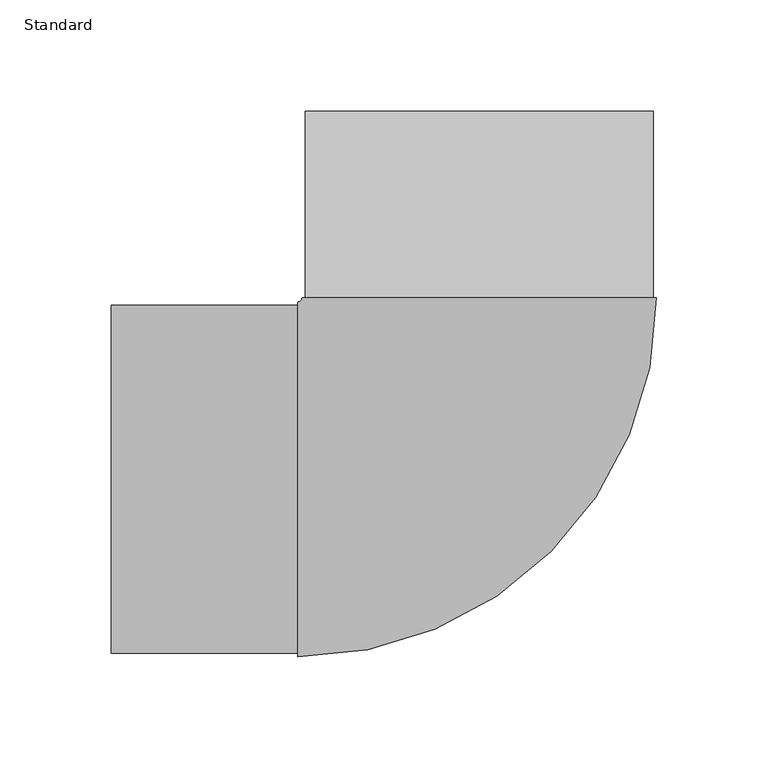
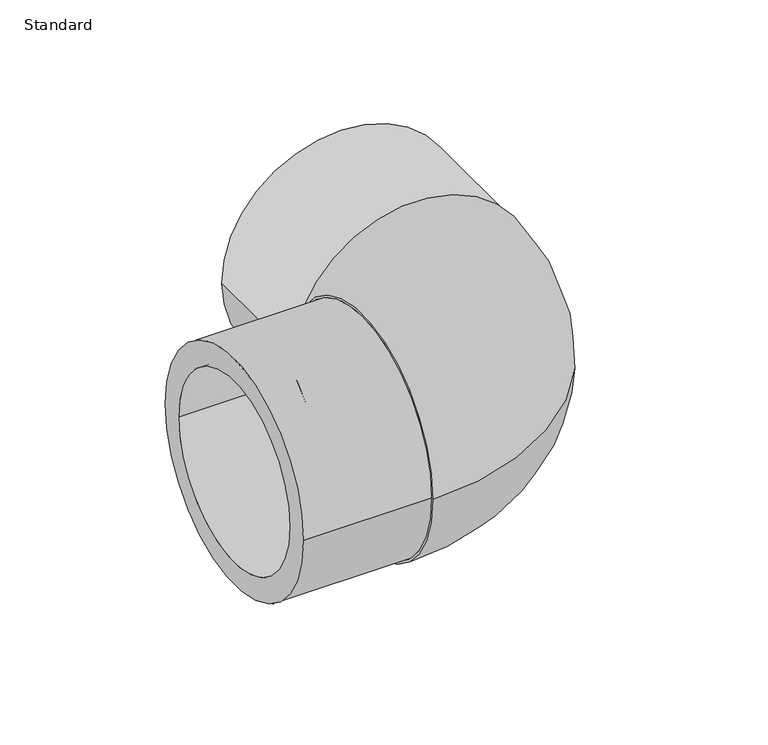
"""IFC4 building model written with IfcOpenShell, lengths in millimetres: pipe fitting geometry, EGB_VASEN_ PPR_Codo a tope 90 WXRB200_Codo a tope 45 WXRB220 : Standard."""

from ifc_helpers import new_model, si_unit, point, frame, origin, place, context, project, spatial, polyline, circle_curve, ellipse_curve, trimmed, source, transform, mapped, element, save
from ifc_brep_helpers import plane_surface, cylinder_surface, revolved_surface, advanced_brep


def standard_e64d8ad2(model_context):
    return source(origin(), model_context, "Body", "AdvancedBrep", [
        advanced_brep(
        [(-165.0, -78.0, 0.0), (-165.0, 78.0, 0.0), (-165.0, -62.5, 0.0), (-165.0, 62.5, 0.0), (-81.5, -78.0, 0.0), (-81.5, 78.0, 0.0), (-81.5, -62.5, 0.0), (-81.5, 62.5, 0.0), (-81.5, -79.5, 0.0), (-81.5, 79.5, 0.0), (79.5, 81.5, 0.0), (-79.5, 81.5, 0.0), (78.0, 81.5, 0.0), (-78.0, 81.5, 0.0), (62.5, 81.5, 0.0), (-62.5, 81.5, 0.0), (78.0, 165.0, 0.0), (-78.0, 165.0, 0.0), (62.5, 165.0, 0.0), (-62.5, 165.0, 0.0)],
        [
            (0, 1, circle_curve(frame((-165.0, 0.0, 0.0), z_axis=(-1.0, 0.0, 0.0), x_axis=(0.0, 1.0, 0.0)), 78.0)),
            (1, 0, circle_curve(frame((-165.0, 0.0, 0.0), z_axis=(-1.0, 0.0, 0.0), x_axis=(0.0, 1.0, 0.0)), 78.0)),
            (2, 3, circle_curve(frame((-165.0, 0.0, 0.0), z_axis=(1.0, 0.0, 0.0), x_axis=(0.0, 1.0, 0.0)), 62.5)),
            (3, 2, circle_curve(frame((-165.0, 0.0, 0.0), z_axis=(1.0, 0.0, 0.0), x_axis=(0.0, 1.0, 0.0)), 62.5)),
            (0, 4),
            (4, 5, circle_curve(frame((-81.5, 0.0, 0.0), z_axis=(-1.0, 0.0, 0.0), x_axis=(0.0, 1.0, 0.0)), 78.0)),
            (5, 1),
            (5, 4, circle_curve(frame((-81.5, 0.0, 0.0), z_axis=(-1.0, 0.0, 0.0), x_axis=(0.0, 1.0, 0.0)), 78.0)),
            (2, 6),
            (6, 7, circle_curve(frame((-81.5, 0.0, 0.0), z_axis=(1.0, 0.0, 0.0), x_axis=(0.0, 1.0, 0.0)), 62.5)),
            (7, 3),
            (7, 6, circle_curve(frame((-81.5, 0.0, 0.0), z_axis=(1.0, 0.0, 0.0), x_axis=(0.0, 1.0, 0.0)), 62.5)),
            (8, 9, circle_curve(frame((-81.5, 0.0, 0.0), z_axis=(-1.0, 0.0, 0.0), x_axis=(0.0, 1.0, 0.0)), 79.5)),
            (9, 8, circle_curve(frame((-81.5, 0.0, 0.0), z_axis=(-1.0, 0.0, 0.0), x_axis=(0.0, 1.0, 0.0)), 79.5)),
            (10, 11, circle_curve(frame((0.0, 81.5, 0.0), z_axis=(0.0, 1.0, 0.0), x_axis=(-1.0, 0.0, 0.0)), 79.5)),
            (11, 10, circle_curve(frame((0.0, 81.5, 0.0), z_axis=(0.0, 1.0, 0.0), x_axis=(-1.0, 0.0, 0.0)), 79.5)),
            (12, 13, circle_curve(frame((0.0, 81.5, 0.0), z_axis=(0.0, -1.0, 0.0), x_axis=(-1.0, 0.0, 0.0)), 78.0)),
            (13, 12, circle_curve(frame((0.0, 81.5, 0.0), z_axis=(0.0, -1.0, 0.0), x_axis=(-1.0, 0.0, 0.0)), 78.0)),
            (14, 15, circle_curve(frame((0.0, 81.5, 0.0), z_axis=(0.0, 1.0, 0.0), x_axis=(-1.0, 0.0, 0.0)), 62.5)),
            (15, 14, circle_curve(frame((0.0, 81.5, 0.0), z_axis=(0.0, 1.0, 0.0), x_axis=(-1.0, 0.0, 0.0)), 62.5)),
            (8, 10, circle_curve(frame((-81.5, 81.5, 0.0), z_axis=(0.0, 0.0, 1.0), x_axis=(0.0, -1.0, 0.0)), 161.0)),
            (11, 9, circle_curve(frame((-81.5, 81.5, 0.0), z_axis=(0.0, 0.0, -1.0), x_axis=(0.0, -1.0, 0.0)), 2.0)),
            (16, 17, circle_curve(frame((0.0, 165.0, 0.0), z_axis=(0.0, 1.0, 0.0), x_axis=(-1.0, 0.0, 0.0)), 78.0)),
            (17, 16, circle_curve(frame((0.0, 165.0, 0.0), z_axis=(0.0, 1.0, 0.0), x_axis=(-1.0, 0.0, 0.0)), 78.0)),
            (18, 19, circle_curve(frame((0.0, 165.0, 0.0), z_axis=(0.0, -1.0, 0.0), x_axis=(-1.0, 0.0, 0.0)), 62.5)),
            (19, 18, circle_curve(frame((0.0, 165.0, 0.0), z_axis=(0.0, -1.0, 0.0), x_axis=(-1.0, 0.0, 0.0)), 62.5)),
            (17, 13),
            (12, 16),
            (19, 15),
            (14, 18),
        ],
        [
            plane_surface(frame((-165.0, 0.0, 0.0), z_axis=(-1.0, 0.0, 0.0), x_axis=(0.0, 0.0, 1.0))),
            cylinder_surface(frame((-165.0, 0.0, 0.0), z_axis=(-1.0, 0.0, 0.0), x_axis=(0.0, 1.0, 0.0)), 78.0),
            revolved_surface(polyline([(-81.5, 62.5, 0.0), (-165.0, 62.5, 0.0)]), (-165.0, 0.0, 0.0), (1.0, 0.0, 0.0)),
            plane_surface(frame((-81.5, 0.0, 0.0), z_axis=(-1.0, 0.0, 0.0), x_axis=(0.0, 0.0, 1.0))),
            plane_surface(frame((0.0, 81.5, 0.0), z_axis=(0.0, 1.0, 0.0), x_axis=(0.0, 0.0, 1.0))),
            revolved_surface(trimmed(ellipse_curve(frame((-81.5, 0.0, 0.0), z_axis=(-1.0, 0.0, 0.0), x_axis=(0.0, 1.0, 0.0)), 79.5, 79.5), [point((-81.5, -79.5, 0.0))], [point((-81.5, 79.5, 0.0))], True, "CARTESIAN"), (-81.5, 81.5, 0.0), (0.0, 0.0, 1.0)),
            revolved_surface(trimmed(ellipse_curve(frame((-81.5, 0.0, 0.0), z_axis=(-1.0, 0.0, 0.0), x_axis=(0.0, 1.0, 0.0)), 79.5, 79.5), [point((-81.5, 79.5, 0.0))], [point((-81.5, -79.5, 0.0))], True, "CARTESIAN"), (-81.5, 81.5, 0.0), (0.0, 0.0, 1.0)),
            plane_surface(frame((0.0, 165.0, 0.0), z_axis=(0.0, 1.0, 0.0), x_axis=(0.0, 0.0, 1.0))),
            cylinder_surface(frame((0.0, 81.5, 0.0), z_axis=(0.0, -1.0, 0.0), x_axis=(-1.0, 0.0, 0.0)), 78.0),
            revolved_surface(polyline([(-62.5, 165.0, 0.0), (-62.5, 81.5, 0.0)]), (0.0, 81.5, 0.0), (0.0, 1.0, 0.0)),
        ],
        [
            (0, [[1, 2], [3, 4]]),
            (1, [[-1, 5, 6, 7]]),
            (1, [[-2, -7, 8, -5]]),
            (2, [[-3, 9, 10, 11]]),
            (2, [[-4, -11, 12, -9]]),
            (3, [[-10, -12]]),
            (3, [[13, 14], [-6, -8]]),
            (4, [[15, 16], [17, 18]]),
            (4, [[19, 20]]),
            (5, [[-13, 21, -16, 22]]),
            (6, [[-14, -22, -15, -21]]),
            (7, [[23, 24], [25, 26]]),
            (8, [[-24, 27, -17, 28]]),
            (8, [[-23, -28, -18, -27]]),
            (9, [[-26, 29, -19, 30]]),
            (9, [[-25, -30, -20, -29]]),
        ],
    ),
    ])


if __name__ == "__main__":
    model = new_model("IFC4")
    model_context = context("Model", 3, world=origin())
    ifc_project = project(units=[si_unit("LENGTHUNIT", "METRE", prefix="MILLI")], contexts=[model_context])
    site = spatial("IfcSite", under=ifc_project)
    building = spatial("IfcBuilding", under=site)
    placement = place(None, origin())
    standard_shape = standard_e64d8ad2(model_context)
    element("IfcPipeFitting", 1, ObjectType="EGB_VASEN_ PPR_Codo a tope 90 WXRB200_Codo a tope 45 WXRB220 : Standard", at=placement, inside=building, context=model_context, shape_type="MappedRepresentation", body=[
        mapped(standard_shape, transform((0.0, 0.0, 0.0), x_axis=(1.0, 0.0, 0.0), y_axis=(0.0, 1.0, 0.0), z_axis=(0.0, 0.0, 1.0))),
    ])
    save(model, "model.ifc")
